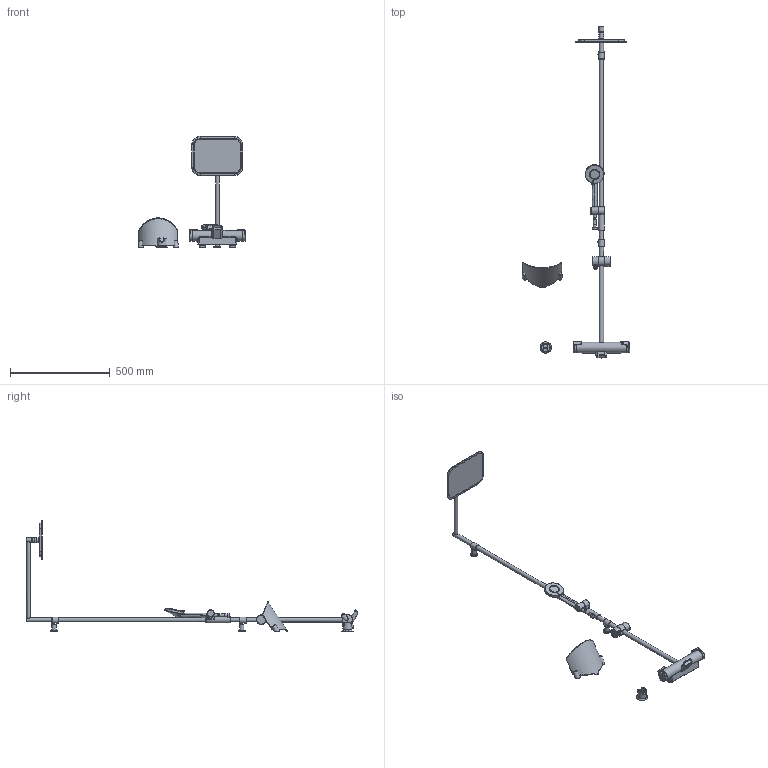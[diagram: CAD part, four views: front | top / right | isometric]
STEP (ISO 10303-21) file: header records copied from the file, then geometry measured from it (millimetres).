
FILE_DESCRIPTION (( 'STEP AP203' ), '1' );
FILE_NAME ('7194.STEP', '2017-03-09T05:59:52', ( '' ), ( '' ), 'SwSTEP 2.0', 'SolidWorks 2016', '' );
FILE_SCHEMA (( 'CONFIG_CONTROL_DESIGN' ));
Length unit declared in the file: millimetre
Products named in the file (1): 7194
Bounding box: 537.63 x 1664.85 x 557.94 mm (x, y, z)
Surface area: 491803.5 mm2 (no closed solid volume)
Topology: 0 solids, 9 shells, 640 faces, 1453 edges, 874 vertices
Faces by surface type: bspline 251, cylinder 127, plane 118, torus 78, cone 50, sphere 16
Full cylindrical faces by diameter (mm): 10 x2, 15 x2, 16.1 x1, 18 x2, 18.241 x1, 20.955 x1, 21.9 x3, 22 x3, 22.6 x1, 22.95 x1, 23 x2, 24 x2, 25 x2, 26 x2, 30 x1, 31 x2, 31.271 x1, 35 x2, 40 x2, 46.246 x1, 47.946 x1, 48.3 x1, 53 x1
Entity records: 44475 total; most frequent: CARTESIAN_POINT 32786, ORIENTED_EDGE 2588, DIRECTION 1908, EDGE_CURVE 1295, AXIS2_PLACEMENT_3D 854, VERTEX_POINT 825, EDGE_LOOP 794, FACE_OUTER_BOUND 721
